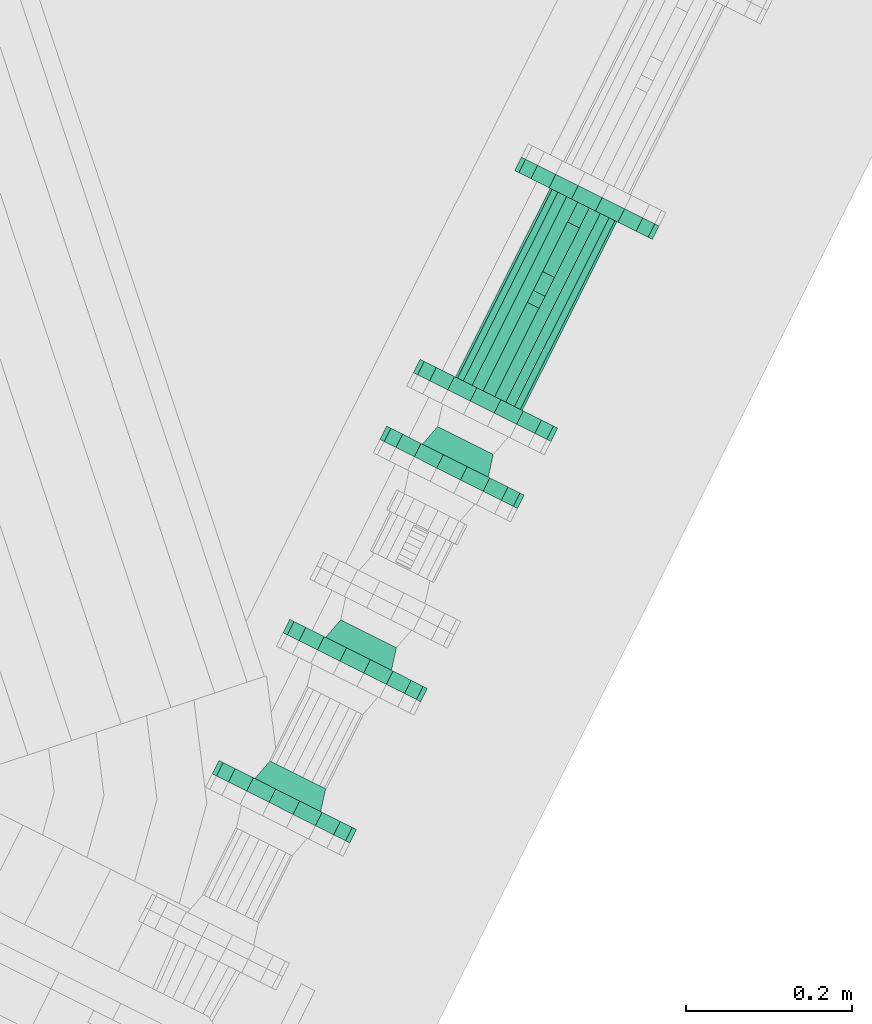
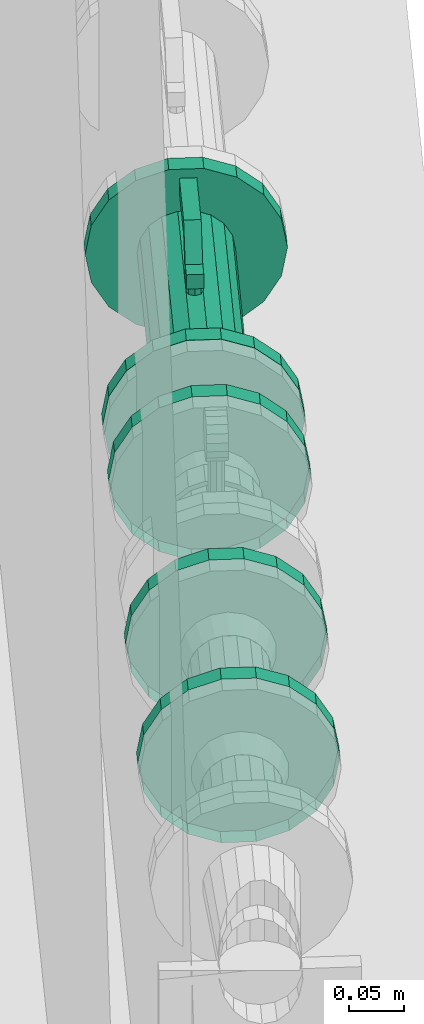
# One storey, part 78 of 206: 3 flow fittings, 1 flow controller.
"""IFC2X3 building model written with IfcOpenShell, lengths in metres."""

from ifc_helpers import new_model, si_unit, derived_unit, direction, frame, origin, place, context, subcontext, project, spatial, face_set, surface_model, source, transform, mapped, material, type_object, type_shapes, element, save


model = new_model("IFC2X3")

# Units and contexts
model_context = context("Model", 3, precision=5.2338327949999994e-05, world=origin(), true_north=direction((0.0, 1.0)))
body_context = subcontext(model_context, "Body", "Model", "MODEL_VIEW")
ifc_project = project(units=[si_unit("LENGTHUNIT", "METRE"), si_unit("AREAUNIT", "SQUARE_METRE"), si_unit("VOLUMEUNIT", "CUBIC_METRE"), si_unit("MASSUNIT", "GRAM", prefix="KILO"), si_unit("PLANEANGLEUNIT", "RADIAN"), derived_unit("THERMALTRANSMITTANCEUNIT", [(si_unit("MASSUNIT", "GRAM", prefix="KILO"), 1), (si_unit("THERMODYNAMICTEMPERATUREUNIT", "KELVIN"), -1), (si_unit("TIMEUNIT", "SECOND"), -3)])], contexts=[model_context])

# Site, building, storey
site_placement = place(None, frame((0.0, 0.0, 0.0), z_axis=(0.0, 0.0, 1.0), x_axis=(0.8939966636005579, -0.4480736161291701, 0.0)))
site = spatial("IfcSite", under=ifc_project, at=site_placement, Name="Default", CompositionType="ELEMENT")
building_placement = place(site_placement, origin())
building = spatial("IfcBuilding", under=site, at=building_placement, CompositionType="ELEMENT")
storey_placement = place(building_placement, origin())
storey = spatial("IfcBuildingStorey", under=building, at=storey_placement, Name="Erdgeschoss", CompositionType="ELEMENT", Elevation=0.0)

# Flow fitting
ifc_material = material(Name="IfcSurfaceStyle #352577")
distribution_element_type_1 = type_object("IfcDistributionElementType", Name="Flansch 604362:Flansch 604362", material=ifc_material)
shared_shape_1 = source(origin(), body_context, "Body", "SurfaceModel", [
    surface_model("IfcFaceBasedSurfaceModel", [(27.353142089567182, 5.90795839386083, 0.8699999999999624), (27.358720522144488, 5.90795839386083, 0.9016368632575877), (27.358720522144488, 5.925958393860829, 0.9016368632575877), (27.353142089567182, 5.925958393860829, 0.8699999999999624), (27.37478297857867, 5.90795839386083, 0.9294578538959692), (27.37478297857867, 5.925958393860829, 0.9294578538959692), (27.399392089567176, 5.90795839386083, 0.950107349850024), (27.399392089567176, 5.925958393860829, 0.950107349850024), (27.429579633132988, 5.90795839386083, 0.9610947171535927), (27.429579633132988, 5.925958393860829, 0.9610947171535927), (27.46170454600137, 5.90795839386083, 0.9610947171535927), (27.46170454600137, 5.925958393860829, 0.9610947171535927), (27.491892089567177, 5.90795839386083, 0.9501073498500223), (27.491892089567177, 5.925958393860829, 0.9501073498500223), (27.516501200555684, 5.90795839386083, 0.9294578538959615), (27.516501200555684, 5.925958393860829, 0.9294578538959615), (27.532563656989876, 5.90795839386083, 0.9016368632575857), (27.532563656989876, 5.925958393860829, 0.9016368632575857), (27.538142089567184, 5.90795839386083, 0.8699999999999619), (27.538142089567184, 5.925958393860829, 0.8699999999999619), (27.532563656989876, 5.90795839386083, 0.838363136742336), (27.532563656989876, 5.925958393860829, 0.838363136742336), (27.516501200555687, 5.90795839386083, 0.8105421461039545), (27.516501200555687, 5.925958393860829, 0.8105421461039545), (27.491892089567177, 5.90795839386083, 0.7898926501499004), (27.491892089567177, 5.925958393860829, 0.7898926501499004), (27.461704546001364, 5.90795839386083, 0.7789052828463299), (27.461704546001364, 5.925958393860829, 0.7789052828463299), (27.429579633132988, 5.90795839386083, 0.7789052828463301), (27.429579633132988, 5.925958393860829, 0.7789052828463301), (27.399392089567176, 5.90795839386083, 0.7898926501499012), (27.399392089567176, 5.925958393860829, 0.7898926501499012), (27.37478297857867, 5.90795839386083, 0.8105421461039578), (27.37478297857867, 5.925958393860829, 0.8105421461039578), (27.358720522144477, 5.90795839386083, 0.8383631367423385), (27.358720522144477, 5.925958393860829, 0.8383631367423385), (27.445642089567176, 5.925958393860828, 0.8699999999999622), (27.44564208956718, 5.925958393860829, 0.9149999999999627), (27.461032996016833, 5.925958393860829, 0.9122861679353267), (27.45865595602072, 5.95295839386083, 0.9057553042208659), (27.44564208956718, 5.95295839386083, 0.9080499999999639), (27.47456753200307, 5.925958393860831, 0.9044719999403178), (27.470100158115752, 5.952958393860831, 0.8991479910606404), (27.48461323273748, 5.925958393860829, 0.8924999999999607), (27.478594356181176, 5.95295839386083, 0.889024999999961), (27.48995843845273, 5.925958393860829, 0.8778141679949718), (27.48311402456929, 5.95295839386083, 0.8766073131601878), (27.489958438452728, 5.925958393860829, 0.8621858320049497), (27.48311402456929, 5.95295839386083, 0.8633926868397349), (27.484613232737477, 5.925958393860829, 0.8474999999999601), (27.478594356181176, 5.95295839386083, 0.8509749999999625), (27.47456753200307, 5.925958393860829, 0.8355280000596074), (27.470100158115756, 5.95295839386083, 0.8408520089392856), (27.46103299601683, 5.925958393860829, 0.8277138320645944), (27.45865595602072, 5.95295839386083, 0.8342446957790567), (27.44564208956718, 5.925958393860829, 0.8249999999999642), (27.44564208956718, 5.95295839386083, 0.8319499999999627), (27.430251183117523, 5.925958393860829, 0.8277138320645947), (27.432628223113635, 5.95295839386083, 0.8342446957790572), (27.416716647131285, 5.925958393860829, 0.8355280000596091), (27.421184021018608, 5.95295839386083, 0.8408520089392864), (27.406670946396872, 5.925958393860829, 0.8474999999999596), (27.412689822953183, 5.95295839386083, 0.8509749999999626), (27.401325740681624, 5.925958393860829, 0.8621858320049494), (27.40817015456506, 5.95295839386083, 0.8633926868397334), (27.401325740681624, 5.925958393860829, 0.877814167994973), (27.40817015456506, 5.95295839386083, 0.8766073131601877), (27.40667094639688, 5.925958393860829, 0.8924999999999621), (27.412689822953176, 5.95295839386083, 0.8890249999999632), (27.416716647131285, 5.925958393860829, 0.9044719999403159), (27.421184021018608, 5.95295839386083, 0.8991479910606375), (27.430251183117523, 5.925958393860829, 0.9122861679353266), (27.432628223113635, 5.95295839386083, 0.9057553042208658)], [face_set([[[0, 1, 2, 3]], [[1, 4, 5, 2]], [[4, 6, 7, 5]], [[6, 8, 9, 7]], [[8, 10, 11, 9]], [[10, 12, 13, 11]], [[12, 14, 15, 13]], [[14, 16, 17, 15]], [[16, 18, 19, 17]], [[18, 20, 21, 19]], [[20, 22, 23, 21]], [[22, 24, 25, 23]], [[24, 26, 27, 25]], [[26, 28, 29, 27]], [[28, 30, 31, 29]], [[30, 32, 33, 31]], [[32, 34, 35, 33]], [[34, 0, 3, 35]], [[36, 35, 3]], [[36, 33, 35]], [[36, 31, 33]], [[36, 29, 31]], [[36, 27, 29]], [[36, 25, 27]], [[36, 23, 25]], [[36, 21, 23]], [[36, 19, 21]], [[36, 17, 19]], [[36, 15, 17]], [[36, 13, 15]], [[36, 11, 13]], [[36, 9, 11]], [[36, 7, 9]], [[36, 5, 7]], [[36, 2, 5]], [[36, 3, 2]], [[37, 38, 39, 40]], [[38, 41, 42, 39]], [[41, 43, 44, 42]], [[43, 45, 46, 44]], [[45, 47, 48, 46]], [[47, 49, 50, 48]], [[49, 51, 52, 50]], [[51, 53, 54, 52]], [[53, 55, 56, 54]], [[55, 57, 58, 56]], [[57, 59, 60, 58]], [[59, 61, 62, 60]], [[61, 63, 64, 62]], [[63, 65, 66, 64]], [[65, 67, 68, 66]], [[67, 69, 70, 68]], [[69, 71, 72, 70]], [[71, 37, 40, 72]]])]),
])
type_shapes(distribution_element_type_1, [shared_shape_1])
flow_fitting_1_placement = place(storey_placement, origin())
element("IfcFlowFitting", 1, at=flow_fitting_1_placement, inside=storey, type_object=distribution_element_type_1, material=ifc_material, Name="Flansch", ObjectType="Flansch", context=body_context, shape_type="MappedRepresentation", body=[
    mapped(shared_shape_1, transform((0.0, 0.0, 0.0), scale=1.0)),
])

# Flow controller
distribution_element_type_2 = type_object("IfcDistributionElementType", Name="Absperrklappe 604431:Absperrklappe 604431", material=ifc_material)
shared_shape_2 = source(origin(), body_context, "Body", "SurfaceModel", [
    surface_model("IfcFaceBasedSurfaceModel", [(27.437642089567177, 6.410958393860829, 0.9219999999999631), (27.437642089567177, 6.39495839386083, 0.9219999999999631), (27.453642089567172, 6.39495839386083, 0.9219999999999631), (27.453642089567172, 6.410958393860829, 0.9219999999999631), (27.437642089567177, 6.39495839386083, 0.9379999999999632), (27.453642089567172, 6.39495839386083, 0.9379999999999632), (27.437642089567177, 6.410958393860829, 0.9379999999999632), (27.453642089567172, 6.410958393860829, 0.9379999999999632), (27.437642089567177, 6.436291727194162, 0.9699999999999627), (27.453642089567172, 6.436291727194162, 0.9699999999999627), (27.437642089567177, 6.502958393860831, 0.9699999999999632), (27.453642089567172, 6.502958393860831, 0.9699999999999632), (27.437642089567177, 6.502958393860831, 0.9539999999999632), (27.453642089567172, 6.502958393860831, 0.9539999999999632), (27.437642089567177, 6.436291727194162, 0.9539999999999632), (27.453642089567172, 6.436291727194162, 0.9539999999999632), (27.353142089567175, 6.25795839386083, 0.8699999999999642), (27.358720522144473, 6.25795839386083, 0.9016368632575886), (27.358720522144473, 6.27595839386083, 0.9016368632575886), (27.353142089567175, 6.27595839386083, 0.8699999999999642), (27.37478297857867, 6.25795839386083, 0.9294578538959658), (27.37478297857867, 6.27595839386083, 0.9294578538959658), (27.399392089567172, 6.25795839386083, 0.950107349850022), (27.399392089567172, 6.27595839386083, 0.950107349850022), (27.429579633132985, 6.25795839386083, 0.9610947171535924), (27.429579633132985, 6.27595839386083, 0.9610947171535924), (27.461704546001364, 6.25795839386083, 0.9610947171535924), (27.461704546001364, 6.27595839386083, 0.9610947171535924), (27.491892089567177, 6.25795839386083, 0.9501073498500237), (27.491892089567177, 6.27595839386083, 0.9501073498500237), (27.51650120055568, 6.25795839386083, 0.9294578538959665), (27.51650120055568, 6.27595839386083, 0.9294578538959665), (27.532563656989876, 6.25795839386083, 0.9016368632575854), (27.532563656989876, 6.27595839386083, 0.9016368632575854), (27.538142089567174, 6.25795839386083, 0.8699999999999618), (27.538142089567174, 6.27595839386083, 0.8699999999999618), (27.532563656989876, 6.25795839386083, 0.8383631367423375), (27.532563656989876, 6.27595839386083, 0.8383631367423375), (27.51650120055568, 6.25795839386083, 0.8105421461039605), (27.51650120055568, 6.27595839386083, 0.8105421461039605), (27.491892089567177, 6.25795839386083, 0.7898926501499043), (27.491892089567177, 6.27595839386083, 0.7898926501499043), (27.461704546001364, 6.25795839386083, 0.7789052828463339), (27.461704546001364, 6.27595839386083, 0.7789052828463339), (27.429579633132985, 6.25795839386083, 0.7789052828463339), (27.429579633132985, 6.27595839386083, 0.7789052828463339), (27.399392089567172, 6.25795839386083, 0.7898926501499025), (27.399392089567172, 6.27595839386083, 0.7898926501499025), (27.37478297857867, 6.25795839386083, 0.81054214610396), (27.37478297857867, 6.27595839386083, 0.81054214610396), (27.358720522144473, 6.25795839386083, 0.838363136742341), (27.358720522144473, 6.27595839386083, 0.838363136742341), (27.445642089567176, 6.25795839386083, 0.869999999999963), (27.445642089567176, 6.27595839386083, 0.869999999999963), (27.40064208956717, 6.27595839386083, 0.869999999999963), (27.403355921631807, 6.27595839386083, 0.8853909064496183), (27.403355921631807, 6.529958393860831, 0.8853909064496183), (27.40064208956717, 6.529958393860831, 0.869999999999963), (27.411170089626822, 6.27595839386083, 0.8989254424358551), (27.411170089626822, 6.529958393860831, 0.8989254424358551), (27.423142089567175, 6.27595839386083, 0.9089711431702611), (27.423142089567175, 6.529958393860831, 0.9089711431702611), (27.437827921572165, 6.27595839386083, 0.9143163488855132), (27.437827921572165, 6.529958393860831, 0.9143163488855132), (27.453456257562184, 6.27595839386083, 0.9143163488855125), (27.453456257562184, 6.529958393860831, 0.9143163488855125), (27.468142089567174, 6.27595839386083, 0.9089711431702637), (27.468142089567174, 6.529958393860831, 0.9089711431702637), (27.480114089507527, 6.27595839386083, 0.8989254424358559), (27.480114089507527, 6.529958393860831, 0.8989254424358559), (27.487928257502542, 6.27595839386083, 0.885390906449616), (27.487928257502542, 6.529958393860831, 0.885390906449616), (27.490642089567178, 6.27595839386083, 0.869999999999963), (27.490642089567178, 6.529958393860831, 0.869999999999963), (27.487928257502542, 6.27595839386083, 0.8546090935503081), (27.487928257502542, 6.529958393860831, 0.8546090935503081), (27.480114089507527, 6.27595839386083, 0.841074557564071), (27.480114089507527, 6.529958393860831, 0.841074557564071), (27.468142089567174, 6.27595839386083, 0.8310288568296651), (27.468142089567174, 6.529958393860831, 0.8310288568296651), (27.453456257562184, 6.27595839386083, 0.8256836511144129), (27.453456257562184, 6.529958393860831, 0.8256836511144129), (27.437827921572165, 6.27595839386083, 0.8256836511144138), (27.437827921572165, 6.529958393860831, 0.8256836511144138), (27.423142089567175, 6.27595839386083, 0.8310288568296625), (27.423142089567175, 6.529958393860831, 0.8310288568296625), (27.411170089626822, 6.27595839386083, 0.8410745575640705), (27.411170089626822, 6.529958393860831, 0.8410745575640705), (27.403355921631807, 6.27595839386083, 0.8546090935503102), (27.403355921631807, 6.529958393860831, 0.8546090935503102), (27.353142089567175, 6.529958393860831, 0.8699999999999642), (27.358720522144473, 6.529958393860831, 0.9016368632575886), (27.358720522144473, 6.54795839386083, 0.9016368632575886), (27.353142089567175, 6.54795839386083, 0.8699999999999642), (27.37478297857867, 6.529958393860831, 0.9294578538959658), (27.37478297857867, 6.54795839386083, 0.9294578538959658), (27.399392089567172, 6.529958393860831, 0.950107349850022), (27.399392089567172, 6.54795839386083, 0.950107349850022), (27.429579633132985, 6.529958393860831, 0.9610947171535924), (27.429579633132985, 6.54795839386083, 0.9610947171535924), (27.461704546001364, 6.529958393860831, 0.9610947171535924), (27.461704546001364, 6.54795839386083, 0.9610947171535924), (27.491892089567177, 6.529958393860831, 0.9501073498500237), (27.491892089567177, 6.54795839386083, 0.9501073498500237), (27.51650120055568, 6.529958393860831, 0.9294578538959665), (27.51650120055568, 6.54795839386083, 0.9294578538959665), (27.532563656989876, 6.529958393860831, 0.9016368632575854), (27.532563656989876, 6.54795839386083, 0.9016368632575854), (27.538142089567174, 6.529958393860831, 0.8699999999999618), (27.538142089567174, 6.54795839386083, 0.8699999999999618), (27.532563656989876, 6.529958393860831, 0.8383631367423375), (27.532563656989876, 6.54795839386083, 0.8383631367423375), (27.51650120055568, 6.529958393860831, 0.8105421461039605), (27.51650120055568, 6.54795839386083, 0.8105421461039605), (27.491892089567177, 6.529958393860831, 0.7898926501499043), (27.491892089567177, 6.54795839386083, 0.7898926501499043), (27.461704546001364, 6.529958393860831, 0.7789052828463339), (27.461704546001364, 6.54795839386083, 0.7789052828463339), (27.429579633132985, 6.529958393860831, 0.7789052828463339), (27.429579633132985, 6.54795839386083, 0.7789052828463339), (27.399392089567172, 6.529958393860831, 0.7898926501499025), (27.399392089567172, 6.54795839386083, 0.7898926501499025), (27.37478297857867, 6.529958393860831, 0.81054214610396), (27.37478297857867, 6.54795839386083, 0.81054214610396), (27.358720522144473, 6.529958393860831, 0.838363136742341), (27.358720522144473, 6.54795839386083, 0.838363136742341), (27.445642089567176, 6.52995839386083, 0.869999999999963), (27.445642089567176, 6.54795839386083, 0.869999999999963), (27.445642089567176, 6.410958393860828, 0.869999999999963), (27.439985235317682, 6.408615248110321, 0.869999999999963), (27.439985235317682, 6.408615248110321, 0.9219999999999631), (27.445642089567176, 6.410958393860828, 0.9219999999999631), (27.437642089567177, 6.402958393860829, 0.869999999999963), (27.437642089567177, 6.402958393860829, 0.9219999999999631), (27.439985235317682, 6.397301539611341, 0.869999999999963), (27.439985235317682, 6.397301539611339, 0.9219999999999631), (27.445642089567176, 6.394958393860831, 0.869999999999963), (27.445642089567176, 6.394958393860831, 0.9219999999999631), (27.451298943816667, 6.397301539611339, 0.869999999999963), (27.451298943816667, 6.397301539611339, 0.9219999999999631), (27.453642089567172, 6.402958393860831, 0.869999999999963), (27.453642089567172, 6.402958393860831, 0.9219999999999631), (27.451298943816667, 6.408615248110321, 0.869999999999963), (27.451298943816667, 6.408615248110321, 0.9219999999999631)], [face_set([[[0, 1, 2, 3]], [[1, 4, 5, 2]], [[4, 6, 7, 5]], [[6, 8, 9, 7]], [[8, 10, 11, 9]], [[10, 12, 13, 11]], [[12, 14, 15, 13]], [[14, 0, 3, 15]], [[3, 7, 2]], [[7, 3, 9]], [[15, 9, 3]], [[9, 15, 11]], [[13, 11, 15]], [[5, 2, 7]], [[1, 6, 0]], [[8, 0, 6]], [[0, 8, 14]], [[10, 14, 8]], [[14, 10, 12]], [[6, 1, 4]], [[16, 17, 18, 19]], [[17, 20, 21, 18]], [[20, 22, 23, 21]], [[22, 24, 25, 23]], [[24, 26, 27, 25]], [[26, 28, 29, 27]], [[28, 30, 31, 29]], [[30, 32, 33, 31]], [[32, 34, 35, 33]], [[34, 36, 37, 35]], [[36, 38, 39, 37]], [[38, 40, 41, 39]], [[40, 42, 43, 41]], [[42, 44, 45, 43]], [[44, 46, 47, 45]], [[46, 48, 49, 47]], [[48, 50, 51, 49]], [[50, 16, 19, 51]], [[52, 17, 16]], [[52, 20, 17]], [[52, 22, 20]], [[52, 24, 22]], [[52, 26, 24]], [[52, 28, 26]], [[52, 30, 28]], [[52, 32, 30]], [[52, 34, 32]], [[52, 36, 34]], [[52, 38, 36]], [[52, 40, 38]], [[52, 42, 40]], [[52, 44, 42]], [[52, 46, 44]], [[52, 48, 46]], [[52, 50, 48]], [[52, 16, 50]], [[53, 51, 19]], [[53, 49, 51]], [[53, 47, 49]], [[53, 45, 47]], [[53, 43, 45]], [[53, 41, 43]], [[53, 39, 41]], [[53, 37, 39]], [[53, 35, 37]], [[53, 33, 35]], [[53, 31, 33]], [[53, 29, 31]], [[53, 27, 29]], [[53, 25, 27]], [[53, 23, 25]], [[53, 21, 23]], [[53, 18, 21]], [[53, 19, 18]], [[54, 55, 56, 57]], [[55, 58, 59, 56]], [[58, 60, 61, 59]], [[60, 62, 63, 61]], [[62, 64, 65, 63]], [[64, 66, 67, 65]], [[66, 68, 69, 67]], [[68, 70, 71, 69]], [[70, 72, 73, 71]], [[72, 74, 75, 73]], [[74, 76, 77, 75]], [[76, 78, 79, 77]], [[78, 80, 81, 79]], [[80, 82, 83, 81]], [[82, 84, 85, 83]], [[84, 86, 87, 85]], [[86, 88, 89, 87]], [[88, 54, 57, 89]], [[90, 91, 92, 93]], [[91, 94, 95, 92]], [[94, 96, 97, 95]], [[96, 98, 99, 97]], [[98, 100, 101, 99]], [[100, 102, 103, 101]], [[102, 104, 105, 103]], [[104, 106, 107, 105]], [[106, 108, 109, 107]], [[108, 110, 111, 109]], [[110, 112, 113, 111]], [[112, 114, 115, 113]], [[114, 116, 117, 115]], [[116, 118, 119, 117]], [[118, 120, 121, 119]], [[120, 122, 123, 121]], [[122, 124, 125, 123]], [[124, 90, 93, 125]], [[126, 91, 90]], [[126, 94, 91]], [[126, 96, 94]], [[126, 98, 96]], [[126, 100, 98]], [[126, 102, 100]], [[126, 104, 102]], [[126, 106, 104]], [[126, 108, 106]], [[126, 110, 108]], [[126, 112, 110]], [[126, 114, 112]], [[126, 116, 114]], [[126, 118, 116]], [[126, 120, 118]], [[126, 122, 120]], [[126, 124, 122]], [[126, 90, 124]], [[127, 125, 93]], [[127, 123, 125]], [[127, 121, 123]], [[127, 119, 121]], [[127, 117, 119]], [[127, 115, 117]], [[127, 113, 115]], [[127, 111, 113]], [[127, 109, 111]], [[127, 107, 109]], [[127, 105, 107]], [[127, 103, 105]], [[127, 101, 103]], [[127, 99, 101]], [[127, 97, 99]], [[127, 95, 97]], [[127, 92, 95]], [[127, 93, 92]], [[128, 129, 130, 131]], [[129, 132, 133, 130]], [[132, 134, 135, 133]], [[134, 136, 137, 135]], [[136, 138, 139, 137]], [[138, 140, 141, 139]], [[140, 142, 143, 141]], [[142, 128, 131, 143]]])]),
])
type_shapes(distribution_element_type_2, [shared_shape_2])
flow_controller_placement = place(storey_placement, origin())
element("IfcFlowController", 2, at=flow_controller_placement, inside=storey, type_object=distribution_element_type_2, material=ifc_material, Name="Absperrklappe", ObjectType="Absperrklappe", context=body_context, shape_type="MappedRepresentation", body=[
    mapped(shared_shape_2, transform((0.0, 0.0, 0.0), scale=1.0)),
])

# Flow fittings
distribution_element_type_3 = type_object("IfcDistributionElementType", Name="Flansch 604477:Flansch 604477", material=ifc_material)
shared_shape_3 = source(origin(), body_context, "Body", "SurfaceModel", [
    surface_model("IfcFaceBasedSurfaceModel", [(27.353142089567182, 5.71795839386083, 0.8699999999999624), (27.358720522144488, 5.71795839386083, 0.9016368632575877), (27.358720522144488, 5.73595839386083, 0.9016368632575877), (27.353142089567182, 5.73595839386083, 0.8699999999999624), (27.37478297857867, 5.71795839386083, 0.9294578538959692), (27.37478297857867, 5.73595839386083, 0.9294578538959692), (27.399392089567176, 5.71795839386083, 0.950107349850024), (27.399392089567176, 5.73595839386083, 0.950107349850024), (27.429579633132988, 5.71795839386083, 0.9610947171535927), (27.429579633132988, 5.73595839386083, 0.9610947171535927), (27.46170454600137, 5.71795839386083, 0.9610947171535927), (27.46170454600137, 5.73595839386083, 0.9610947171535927), (27.491892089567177, 5.71795839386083, 0.9501073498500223), (27.491892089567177, 5.73595839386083, 0.9501073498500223), (27.516501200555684, 5.71795839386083, 0.9294578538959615), (27.516501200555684, 5.73595839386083, 0.9294578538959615), (27.532563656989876, 5.71795839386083, 0.9016368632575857), (27.532563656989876, 5.73595839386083, 0.9016368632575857), (27.538142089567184, 5.71795839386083, 0.8699999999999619), (27.538142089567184, 5.73595839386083, 0.8699999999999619), (27.532563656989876, 5.71795839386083, 0.838363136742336), (27.532563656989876, 5.73595839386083, 0.838363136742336), (27.516501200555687, 5.71795839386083, 0.8105421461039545), (27.516501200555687, 5.73595839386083, 0.8105421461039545), (27.491892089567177, 5.71795839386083, 0.7898926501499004), (27.491892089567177, 5.73595839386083, 0.7898926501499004), (27.461704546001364, 5.71795839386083, 0.7789052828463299), (27.461704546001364, 5.73595839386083, 0.7789052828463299), (27.429579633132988, 5.71795839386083, 0.7789052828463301), (27.429579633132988, 5.73595839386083, 0.7789052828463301), (27.399392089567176, 5.71795839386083, 0.7898926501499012), (27.399392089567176, 5.73595839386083, 0.7898926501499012), (27.37478297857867, 5.71795839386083, 0.8105421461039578), (27.37478297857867, 5.73595839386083, 0.8105421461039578), (27.358720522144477, 5.71795839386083, 0.8383631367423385), (27.358720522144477, 5.73595839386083, 0.8383631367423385), (27.445642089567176, 5.73595839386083, 0.8699999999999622), (27.44564208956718, 5.73595839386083, 0.9149999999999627), (27.461032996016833, 5.73595839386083, 0.9122861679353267), (27.45865595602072, 5.76295839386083, 0.9057553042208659), (27.44564208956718, 5.76295839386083, 0.9080499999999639), (27.47456753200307, 5.735958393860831, 0.9044719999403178), (27.470100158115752, 5.762958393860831, 0.8991479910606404), (27.48461323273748, 5.73595839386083, 0.8924999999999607), (27.478594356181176, 5.76295839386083, 0.889024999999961), (27.48995843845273, 5.73595839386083, 0.8778141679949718), (27.48311402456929, 5.76295839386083, 0.8766073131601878), (27.489958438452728, 5.73595839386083, 0.8621858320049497), (27.48311402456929, 5.76295839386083, 0.8633926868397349), (27.484613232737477, 5.73595839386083, 0.8474999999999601), (27.478594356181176, 5.76295839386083, 0.8509749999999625), (27.47456753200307, 5.73595839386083, 0.8355280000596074), (27.470100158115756, 5.76295839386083, 0.8408520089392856), (27.46103299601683, 5.73595839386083, 0.8277138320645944), (27.45865595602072, 5.76295839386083, 0.8342446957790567), (27.44564208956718, 5.73595839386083, 0.8249999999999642), (27.44564208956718, 5.76295839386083, 0.8319499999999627), (27.430251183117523, 5.73595839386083, 0.8277138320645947), (27.432628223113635, 5.76295839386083, 0.8342446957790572), (27.416716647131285, 5.73595839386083, 0.8355280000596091), (27.421184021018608, 5.76295839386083, 0.8408520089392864), (27.406670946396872, 5.73595839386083, 0.8474999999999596), (27.412689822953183, 5.76295839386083, 0.8509749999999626), (27.401325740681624, 5.73595839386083, 0.8621858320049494), (27.40817015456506, 5.76295839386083, 0.8633926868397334), (27.401325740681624, 5.73595839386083, 0.877814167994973), (27.40817015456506, 5.76295839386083, 0.8766073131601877), (27.40667094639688, 5.73595839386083, 0.8924999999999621), (27.412689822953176, 5.76295839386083, 0.8890249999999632), (27.416716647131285, 5.73595839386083, 0.9044719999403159), (27.421184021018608, 5.76295839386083, 0.8991479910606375), (27.430251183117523, 5.73595839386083, 0.9122861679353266), (27.432628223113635, 5.76295839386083, 0.9057553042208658)], [face_set([[[0, 1, 2, 3]], [[1, 4, 5, 2]], [[4, 6, 7, 5]], [[6, 8, 9, 7]], [[8, 10, 11, 9]], [[10, 12, 13, 11]], [[12, 14, 15, 13]], [[14, 16, 17, 15]], [[16, 18, 19, 17]], [[18, 20, 21, 19]], [[20, 22, 23, 21]], [[22, 24, 25, 23]], [[24, 26, 27, 25]], [[26, 28, 29, 27]], [[28, 30, 31, 29]], [[30, 32, 33, 31]], [[32, 34, 35, 33]], [[34, 0, 3, 35]], [[36, 35, 3]], [[36, 33, 35]], [[36, 31, 33]], [[36, 29, 31]], [[36, 27, 29]], [[36, 25, 27]], [[36, 23, 25]], [[36, 21, 23]], [[36, 19, 21]], [[36, 17, 19]], [[36, 15, 17]], [[36, 13, 15]], [[36, 11, 13]], [[36, 9, 11]], [[36, 7, 9]], [[36, 5, 7]], [[36, 2, 5]], [[36, 3, 2]], [[37, 38, 39, 40]], [[38, 41, 42, 39]], [[41, 43, 44, 42]], [[43, 45, 46, 44]], [[45, 47, 48, 46]], [[47, 49, 50, 48]], [[49, 51, 52, 50]], [[51, 53, 54, 52]], [[53, 55, 56, 54]], [[55, 57, 58, 56]], [[57, 59, 60, 58]], [[59, 61, 62, 60]], [[61, 63, 64, 62]], [[63, 65, 66, 64]], [[65, 67, 68, 66]], [[67, 69, 70, 68]], [[69, 71, 72, 70]], [[71, 37, 40, 72]]])]),
])
type_shapes(distribution_element_type_3, [shared_shape_3])
flow_fitting_2_placement = place(storey_placement, origin())
element("IfcFlowFitting", 3, at=flow_fitting_2_placement, inside=storey, type_object=distribution_element_type_3, material=ifc_material, Name="Flansch", ObjectType="Flansch", context=body_context, shape_type="MappedRepresentation", body=[
    mapped(shared_shape_3, transform((0.0, 0.0, 0.0), scale=1.0)),
])
distribution_element_type_4 = type_object("IfcDistributionElementType", Name="Flansch 604546:Flansch 604546", material=ifc_material)
shared_shape_4 = source(origin(), body_context, "Body", "SurfaceModel", [
    surface_model("IfcFaceBasedSurfaceModel", [(27.353142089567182, 6.167958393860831, 0.8699999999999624), (27.358720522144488, 6.167958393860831, 0.9016368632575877), (27.358720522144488, 6.18595839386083, 0.9016368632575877), (27.353142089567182, 6.18595839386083, 0.8699999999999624), (27.37478297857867, 6.167958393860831, 0.9294578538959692), (27.37478297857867, 6.18595839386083, 0.9294578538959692), (27.399392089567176, 6.167958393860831, 0.950107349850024), (27.399392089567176, 6.18595839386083, 0.950107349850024), (27.429579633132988, 6.167958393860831, 0.9610947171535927), (27.429579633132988, 6.18595839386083, 0.9610947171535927), (27.46170454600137, 6.167958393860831, 0.9610947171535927), (27.46170454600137, 6.18595839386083, 0.9610947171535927), (27.491892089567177, 6.167958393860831, 0.9501073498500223), (27.491892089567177, 6.18595839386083, 0.9501073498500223), (27.516501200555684, 6.167958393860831, 0.9294578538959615), (27.516501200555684, 6.18595839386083, 0.9294578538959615), (27.532563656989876, 6.167958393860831, 0.9016368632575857), (27.532563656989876, 6.18595839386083, 0.9016368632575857), (27.538142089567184, 6.167958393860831, 0.8699999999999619), (27.538142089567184, 6.18595839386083, 0.8699999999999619), (27.532563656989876, 6.167958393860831, 0.838363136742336), (27.532563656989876, 6.18595839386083, 0.838363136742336), (27.516501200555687, 6.167958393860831, 0.8105421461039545), (27.516501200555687, 6.18595839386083, 0.8105421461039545), (27.491892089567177, 6.167958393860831, 0.7898926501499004), (27.491892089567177, 6.18595839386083, 0.7898926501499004), (27.461704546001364, 6.167958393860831, 0.7789052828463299), (27.461704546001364, 6.18595839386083, 0.7789052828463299), (27.429579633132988, 6.167958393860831, 0.7789052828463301), (27.429579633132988, 6.18595839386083, 0.7789052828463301), (27.399392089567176, 6.167958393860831, 0.7898926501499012), (27.399392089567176, 6.18595839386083, 0.7898926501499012), (27.37478297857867, 6.167958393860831, 0.8105421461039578), (27.37478297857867, 6.18595839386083, 0.8105421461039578), (27.358720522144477, 6.167958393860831, 0.8383631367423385), (27.358720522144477, 6.18595839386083, 0.8383631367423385), (27.445642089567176, 6.18595839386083, 0.8699999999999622), (27.44564208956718, 6.18595839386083, 0.9149999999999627), (27.461032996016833, 6.18595839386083, 0.9122861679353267), (27.45865595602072, 6.21295839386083, 0.9057553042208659), (27.44564208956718, 6.21295839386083, 0.9080499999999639), (27.47456753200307, 6.1859583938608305, 0.9044719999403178), (27.470100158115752, 6.2129583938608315, 0.8991479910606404), (27.48461323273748, 6.18595839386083, 0.8924999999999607), (27.478594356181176, 6.21295839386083, 0.889024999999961), (27.48995843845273, 6.18595839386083, 0.8778141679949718), (27.48311402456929, 6.21295839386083, 0.8766073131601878), (27.489958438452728, 6.18595839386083, 0.8621858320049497), (27.48311402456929, 6.21295839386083, 0.8633926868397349), (27.484613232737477, 6.18595839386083, 0.8474999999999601), (27.478594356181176, 6.21295839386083, 0.8509749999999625), (27.47456753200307, 6.18595839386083, 0.8355280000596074), (27.470100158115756, 6.21295839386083, 0.8408520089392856), (27.46103299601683, 6.18595839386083, 0.8277138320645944), (27.45865595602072, 6.21295839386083, 0.8342446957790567), (27.44564208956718, 6.18595839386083, 0.8249999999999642), (27.44564208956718, 6.21295839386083, 0.8319499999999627), (27.430251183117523, 6.18595839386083, 0.8277138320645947), (27.432628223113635, 6.21295839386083, 0.8342446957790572), (27.416716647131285, 6.18595839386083, 0.8355280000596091), (27.421184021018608, 6.21295839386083, 0.8408520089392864), (27.406670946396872, 6.18595839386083, 0.8474999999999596), (27.412689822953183, 6.21295839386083, 0.8509749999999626), (27.401325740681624, 6.18595839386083, 0.8621858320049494), (27.40817015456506, 6.21295839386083, 0.8633926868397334), (27.401325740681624, 6.18595839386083, 0.877814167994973), (27.40817015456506, 6.21295839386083, 0.8766073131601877), (27.40667094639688, 6.18595839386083, 0.8924999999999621), (27.412689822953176, 6.21295839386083, 0.8890249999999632), (27.416716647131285, 6.18595839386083, 0.9044719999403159), (27.421184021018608, 6.21295839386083, 0.8991479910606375), (27.430251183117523, 6.18595839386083, 0.9122861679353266), (27.432628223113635, 6.21295839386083, 0.9057553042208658)], [face_set([[[0, 1, 2, 3]], [[1, 4, 5, 2]], [[4, 6, 7, 5]], [[6, 8, 9, 7]], [[8, 10, 11, 9]], [[10, 12, 13, 11]], [[12, 14, 15, 13]], [[14, 16, 17, 15]], [[16, 18, 19, 17]], [[18, 20, 21, 19]], [[20, 22, 23, 21]], [[22, 24, 25, 23]], [[24, 26, 27, 25]], [[26, 28, 29, 27]], [[28, 30, 31, 29]], [[30, 32, 33, 31]], [[32, 34, 35, 33]], [[34, 0, 3, 35]], [[36, 35, 3]], [[36, 33, 35]], [[36, 31, 33]], [[36, 29, 31]], [[36, 27, 29]], [[36, 25, 27]], [[36, 23, 25]], [[36, 21, 23]], [[36, 19, 21]], [[36, 17, 19]], [[36, 15, 17]], [[36, 13, 15]], [[36, 11, 13]], [[36, 9, 11]], [[36, 7, 9]], [[36, 5, 7]], [[36, 2, 5]], [[36, 3, 2]], [[37, 38, 39, 40]], [[38, 41, 42, 39]], [[41, 43, 44, 42]], [[43, 45, 46, 44]], [[45, 47, 48, 46]], [[47, 49, 50, 48]], [[49, 51, 52, 50]], [[51, 53, 54, 52]], [[53, 55, 56, 54]], [[55, 57, 58, 56]], [[57, 59, 60, 58]], [[59, 61, 62, 60]], [[61, 63, 64, 62]], [[63, 65, 66, 64]], [[65, 67, 68, 66]], [[67, 69, 70, 68]], [[69, 71, 72, 70]], [[71, 37, 40, 72]]])]),
])
type_shapes(distribution_element_type_4, [shared_shape_4])
flow_fitting_3_placement = place(storey_placement, origin())
element("IfcFlowFitting", 4, at=flow_fitting_3_placement, inside=storey, type_object=distribution_element_type_4, material=ifc_material, Name="Flansch", ObjectType="Flansch", context=body_context, shape_type="MappedRepresentation", body=[
    mapped(shared_shape_4, transform((0.0, 0.0, 0.0), scale=1.0)),
])

save(model, "model.ifc")
